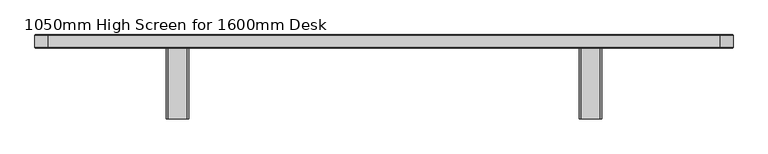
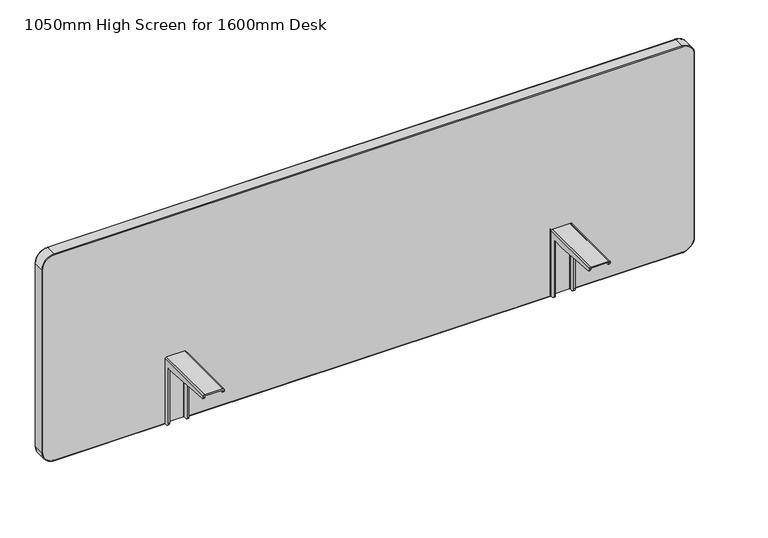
"""IFC4 building model written with IfcOpenShell, lengths in millimetres: furniture geometry, DBLTD_TheSenatorGroup_OffcDsks_Workbase_Single_FabricScreen : 1050mm High Screen for 1600mm Desk."""

from ifc_helpers import new_model, si_unit, point, frame, origin, place, context, project, spatial, polyline, circle_curve, ellipse_curve, trimmed, source, transform, mapped, element, save
from ifc_brep_helpers import plane_surface, cylinder_surface, revolved_surface, advanced_brep


def furniture_1050mm_high_screen_for_1600mm_desk_5fab72e6(model_context):
    return source(origin(), model_context, "Body", "AdvancedBrep", [
        advanced_brep(
        [(515.4999924, 810.0117826, 692.2500534), (518.4999924, 810.0117826, 695.2500534), (562.4536863, 810.0117826, 695.2500534), (565.4536863, 810.0117826, 692.2500534), (565.4536863, 810.0117826, 527.4999888), (830.5, 810.0117826, 527.4999888), (858.5, 810.0117826, 555.4999888), (858.5, 810.0117826, 1020.0), (830.5, 810.0117826, 1048.0), (-675.5, 810.0117826, 1048.0), (-703.5, 810.0117826, 1020.0), (-703.5, 810.0117826, 555.4999888), (-675.5, 810.0117826, 527.4999888), (-410.4536863, 810.0117826, 527.4999888), (-410.4536863, 810.0117826, 692.2500534), (-407.4536863, 810.0117826, 695.2500534), (-363.4999924, 810.0117826, 695.2500534), (-360.4999924, 810.0117826, 692.2500534), (-360.4999924, 810.0117826, 527.4999888), (515.4999924, 810.0117826, 527.4999888), (858.5, 840.0117886, 555.4999888), (830.5, 840.0117886, 527.4999888), (-675.5, 840.0117886, 527.4999888), (-703.5, 840.0117886, 555.4999888), (-703.5, 840.0117886, 1020.0), (-675.5, 840.0117886, 1048.0), (830.5, 840.0117886, 1048.0), (858.5, 840.0117886, 1020.0), (830.5, 812.0117759, 1050.0), (830.5, 838.0117886, 1050.0), (-675.5, 838.0117886, 1050.0), (-675.5, 812.0117826, 1050.0), (-705.5, 838.0117886, 1020.0), (-705.5, 812.0117773, 1020.0), (-705.5, 838.0117886, 555.4999888), (-705.5, 812.0117826, 555.4999888), (-675.5, 838.0117886, 525.4999888), (-675.5, 812.0117811, 525.4999888), (830.5, 812.0117782, 525.4999888), (830.5, 838.0117886, 525.4999888), (860.5, 838.0117886, 555.4999888), (860.5, 812.0117802, 555.4999888), (860.5, 838.0117886, 1020.0), (860.5, 812.0117826, 1020.0), (565.4536863, 816.0117817, 525.4999888), (515.4999924, 816.0117817, 525.4999888), (515.4999924, 812.0117826, 525.4999888), (-360.4999924, 812.0117826, 525.4999888), (-360.4999924, 816.0117817, 525.4999888), (-410.4536863, 816.0117817, 525.4999888), (-410.4536863, 812.0117826, 525.4999888), (565.4536863, 812.0117826, 525.4999888), (565.4536863, 816.0117817, 692.2500534), (562.4536863, 816.0117817, 695.2500534), (518.4999924, 816.0117817, 695.2500534), (515.4999924, 816.0117817, 692.2500534), (-360.4999924, 816.0117817, 692.2500534), (-363.4999924, 816.0117817, 695.2500534), (-407.4536863, 816.0117817, 695.2500534), (-410.4536863, 816.0117817, 692.2500534)],
        [
            (0, 1, circle_curve(frame((518.4999924, 810.0117826, 692.2500534), z_axis=(0.0, 1.0, 0.0), x_axis=(-1.0, 0.0, 0.0)), 3.0)),
            (1, 2),
            (2, 3, circle_curve(frame((562.4536863, 810.0117826, 692.2500534), z_axis=(0.0, 1.0, 0.0), x_axis=(-1.0, 0.0, 0.0)), 3.0)),
            (3, 4),
            (4, 5),
            (5, 6, circle_curve(frame((830.5, 810.0117826, 555.4999888), z_axis=(0.0, -1.0, 0.0), x_axis=(0.0, 0.0, -1.0)), 28.0)),
            (6, 7),
            (7, 8, circle_curve(frame((830.5, 810.0117826, 1020.0), z_axis=(0.0, -1.0, 0.0), x_axis=(1.0, 0.0, 0.0)), 28.0)),
            (8, 9),
            (9, 10, circle_curve(frame((-675.5, 810.0117826, 1020.0), z_axis=(0.0, -1.0, 0.0), x_axis=(0.0, 0.0, 1.0)), 28.0)),
            (10, 11),
            (11, 12, circle_curve(frame((-675.5, 810.0117826, 555.4999888), z_axis=(0.0, -1.0, 0.0), x_axis=(-1.0, 0.0, 0.0)), 28.0)),
            (12, 13),
            (13, 14),
            (14, 15, circle_curve(frame((-407.4536863, 810.0117826, 692.2500534), z_axis=(0.0, 1.0, 0.0), x_axis=(1.0, 0.0, 0.0)), 3.0)),
            (15, 16),
            (16, 17, circle_curve(frame((-363.4999924, 810.0117826, 692.2500534), z_axis=(0.0, 1.0, 0.0), x_axis=(1.0, 0.0, 0.0)), 3.0)),
            (17, 18),
            (18, 19),
            (19, 0),
            (20, 21, circle_curve(frame((830.5, 840.0117886, 555.4999888), z_axis=(0.0, 1.0, 0.0), x_axis=(0.0, 0.0, -1.0)), 28.0)),
            (21, 22),
            (22, 23, circle_curve(frame((-675.5, 840.0117886, 555.4999888), z_axis=(0.0, 1.0, 0.0), x_axis=(-1.0, 0.0, 0.0)), 28.0)),
            (23, 24),
            (24, 25, circle_curve(frame((-675.5, 840.0117886, 1020.0), z_axis=(0.0, 1.0, 0.0), x_axis=(0.0, 0.0, 1.0)), 28.0)),
            (25, 26),
            (26, 27, circle_curve(frame((830.5, 840.0117886, 1020.0), z_axis=(0.0, 1.0, 0.0), x_axis=(1.0, 0.0, 0.0)), 28.0)),
            (27, 20),
            (28, 29),
            (29, 30),
            (30, 31),
            (31, 28),
            (30, 32, circle_curve(frame((-675.5, 838.0117886, 1020.0), z_axis=(0.0, -1.0, 0.0), x_axis=(1.0, 0.0, 0.0)), 30.0)),
            (32, 33),
            (33, 31, circle_curve(frame((-675.5, 812.0117826, 1020.0), z_axis=(0.0, 1.0, 0.0), x_axis=(1.0, 0.0, 0.0)), 30.0)),
            (32, 34),
            (34, 35),
            (35, 33),
            (34, 36, circle_curve(frame((-675.5, 838.0117886, 555.4999888), z_axis=(0.0, -1.0, 0.0), x_axis=(1.0, 0.0, 0.0)), 30.0)),
            (36, 37),
            (37, 35, circle_curve(frame((-675.5, 812.0117826, 555.4999888), z_axis=(0.0, 1.0, 0.0), x_axis=(1.0, 0.0, 0.0)), 30.0)),
            (38, 39),
            (39, 40, circle_curve(frame((830.5, 838.0117886, 555.4999888), z_axis=(0.0, -1.0, 0.0), x_axis=(1.0, 0.0, 0.0)), 30.0)),
            (40, 41),
            (41, 38, circle_curve(frame((830.5, 812.0117826, 555.4999888), z_axis=(0.0, 1.0, 0.0), x_axis=(1.0, 0.0, 0.0)), 30.0)),
            (40, 42),
            (42, 43),
            (43, 41),
            (28, 43, circle_curve(frame((830.5, 812.0117826, 1020.0), z_axis=(0.0, 1.0, 0.0), x_axis=(1.0, 0.0, 0.0)), 30.0)),
            (42, 29, circle_curve(frame((830.5, 838.0117886, 1020.0), z_axis=(0.0, -1.0, 0.0), x_axis=(1.0, 0.0, 0.0)), 30.0)),
            (44, 45),
            (45, 46),
            (46, 47),
            (47, 48),
            (48, 49),
            (49, 50),
            (50, 37),
            (36, 39),
            (38, 51),
            (51, 44),
            (44, 52),
            (52, 53, circle_curve(frame((562.4536863, 816.0117817, 692.2500534), z_axis=(0.0, -1.0, 0.0), x_axis=(-1.0, 0.0, 0.0)), 3.0)),
            (53, 54),
            (54, 55, circle_curve(frame((518.4999924, 816.0117817, 692.2500534), z_axis=(0.0, -1.0, 0.0), x_axis=(-1.0, 0.0, 0.0)), 3.0)),
            (55, 45),
            (55, 0),
            (19, 46, circle_curve(frame((515.4999924, 812.0117826, 527.4999888), z_axis=(1.0, 0.0, 0.0), x_axis=(0.0, 1.0, 0.0)), 2.0)),
            (54, 1),
            (53, 2),
            (52, 3),
            (51, 4, circle_curve(frame((565.4536863, 812.0117826, 527.4999888), z_axis=(-1.0, 0.0, 0.0), x_axis=(0.0, 1.0, 0.0)), 2.0)),
            (48, 56),
            (56, 57, circle_curve(frame((-363.4999924, 816.0117817, 692.2500534), z_axis=(0.0, -1.0, 0.0), x_axis=(1.0, 0.0, 0.0)), 3.0)),
            (57, 58),
            (58, 59, circle_curve(frame((-407.4536863, 816.0117817, 692.2500534), z_axis=(0.0, -1.0, 0.0), x_axis=(1.0, 0.0, 0.0)), 3.0)),
            (59, 49),
            (47, 18, circle_curve(frame((-360.4999924, 812.0117826, 527.4999888), z_axis=(-1.0, 0.0, 0.0), x_axis=(0.0, 1.0, 0.0)), 2.0)),
            (17, 56),
            (16, 57),
            (15, 58),
            (14, 59),
            (13, 50, circle_curve(frame((-410.4536863, 812.0117826, 527.4999888), z_axis=(1.0, 0.0, 0.0), x_axis=(0.0, 1.0, 0.0)), 2.0)),
            (41, 6, circle_curve(frame((858.5, 812.0117826, 555.4999888), z_axis=(0.0, 0.0, -1.0), x_axis=(0.0, -1.0, 0.0)), 2.0)),
            (5, 38, circle_curve(frame((830.5, 812.0117826, 527.4999888), z_axis=(1.0, 0.0, 0.0), x_axis=(0.0, -1.0, 0.0)), 2.0)),
            (43, 7, circle_curve(frame((858.5, 812.0117826, 1020.0), z_axis=(0.0, 0.0, -1.0), x_axis=(0.0, -1.0, 0.0)), 2.0)),
            (28, 8, circle_curve(frame((830.5, 812.0117826, 1048.0), z_axis=(1.0, 0.0, 0.0), x_axis=(0.0, -1.0, 0.0)), 2.0)),
            (31, 9, circle_curve(frame((-675.5, 812.0117826, 1048.0), z_axis=(1.0, 0.0, 0.0), x_axis=(0.0, -1.0, 0.0)), 2.0)),
            (33, 10, circle_curve(frame((-703.5, 812.0117826, 1020.0), z_axis=(0.0, 0.0, 1.0), x_axis=(0.0, -1.0, 0.0)), 2.0)),
            (35, 11, circle_curve(frame((-703.5, 812.0117826, 555.4999888), z_axis=(0.0, 0.0, 1.0), x_axis=(0.0, -1.0, 0.0)), 2.0)),
            (37, 12, circle_curve(frame((-675.5, 812.0117826, 527.4999888), z_axis=(-1.0, 0.0, 0.0), x_axis=(0.0, -1.0, 0.0)), 2.0)),
            (20, 40, circle_curve(frame((858.5, 838.0117886, 555.4999888), z_axis=(0.0, 0.0, -1.0), x_axis=(0.0, -1.0, 0.0)), 2.0)),
            (39, 21, circle_curve(frame((830.5, 838.0117886, 527.4999888), z_axis=(1.0, 0.0, 0.0), x_axis=(0.0, -1.0, 0.0)), 2.0)),
            (27, 42, circle_curve(frame((858.5, 838.0117886, 1020.0), z_axis=(0.0, 0.0, -1.0), x_axis=(0.0, -1.0, 0.0)), 2.0)),
            (26, 29, circle_curve(frame((830.5, 838.0117886, 1048.0), z_axis=(1.0, 0.0, 0.0), x_axis=(0.0, -1.0, 0.0)), 2.0)),
            (25, 30, circle_curve(frame((-675.5, 838.0117886, 1048.0), z_axis=(1.0, 0.0, 0.0), x_axis=(0.0, -1.0, 0.0)), 2.0)),
            (24, 32, circle_curve(frame((-703.5, 838.0117886, 1020.0), z_axis=(0.0, 0.0, 1.0), x_axis=(0.0, -1.0, 0.0)), 2.0)),
            (23, 34, circle_curve(frame((-703.5, 838.0117886, 555.4999888), z_axis=(0.0, 0.0, 1.0), x_axis=(0.0, -1.0, 0.0)), 2.0)),
            (22, 36, circle_curve(frame((-675.5, 838.0117886, 527.4999888), z_axis=(-1.0, 0.0, 0.0), x_axis=(0.0, -1.0, 0.0)), 2.0)),
        ],
        [
            plane_surface(frame((-675.5, 810.0117826, 1050.0), z_axis=(0.0, -1.0, 0.0), x_axis=(-1.0, 0.0, 0.0))),
            plane_surface(frame((-675.5, 840.0117886, 1050.0), z_axis=(0.0, 1.0, 0.0), x_axis=(1.0, 0.0, 0.0))),
            plane_surface(frame((830.5, 810.0117826, 1050.0), z_axis=(0.0, 0.0, 1.0), x_axis=(0.0, 1.0, 0.0))),
            cylinder_surface(frame((-675.5, 840.0117886, 1020.0), z_axis=(0.0, -1.0, 0.0), x_axis=(1.0, 0.0, 0.0)), 30.0),
            plane_surface(frame((-705.5, 810.0117826, 1020.0), z_axis=(-1.0, 0.0, 0.0), x_axis=(0.0, 1.0, 0.0))),
            cylinder_surface(frame((-675.5, 840.0117886, 555.4999888), z_axis=(0.0, -1.0, 0.0), x_axis=(1.0, 0.0, 0.0)), 30.0),
            cylinder_surface(frame((830.5, 840.0117886, 555.4999888), z_axis=(0.0, -1.0, 0.0), x_axis=(1.0, 0.0, 0.0)), 30.0),
            plane_surface(frame((860.5, 810.0117826, 555.4999888), z_axis=(1.0, 0.0, 0.0), x_axis=(0.0, 1.0, 0.0))),
            cylinder_surface(frame((830.5, 840.0117886, 1020.0), z_axis=(0.0, -1.0, 0.0), x_axis=(1.0, 0.0, 0.0)), 30.0),
            plane_surface(frame((-675.5, 810.0117826, 525.4999888), z_axis=(0.0, 0.0, -1.0), x_axis=(0.0, 1.0, 0.0))),
            plane_surface(frame((565.4536863, 816.0117817, 692.2500534), z_axis=(0.0, -1.0, 0.0), x_axis=(0.0, 0.0, -1.0))),
            plane_surface(frame((515.4999924, 810.0117826, 692.2500534), z_axis=(1.0, 0.0, 0.0), x_axis=(0.0, 1.0, 0.0))),
            revolved_surface(polyline([(515.4999924, 810.0117826, 692.2500534), (515.4999924, 816.0117817, 692.2500534)]), (518.4999924, 816.0117817, 692.2500534), (0.0, -1.0, 0.0)),
            plane_surface(frame((562.4536863, 810.0117826, 695.2500534), z_axis=(0.0, 0.0, -1.0), x_axis=(0.0, 1.0, 0.0))),
            revolved_surface(polyline([(559.4536863, 810.0117826, 692.2500534), (559.4536863, 816.0117817, 692.2500534)]), (562.4536863, 816.0117817, 692.2500534), (0.0, -1.0, 0.0)),
            plane_surface(frame((565.4536863, 810.0117826, 525.4999888), z_axis=(-1.0, 0.0, 0.0), x_axis=(0.0, 1.0, 0.0))),
            plane_surface(frame((-410.4536863, 816.0117817, 525.4999888), z_axis=(0.0, -1.0, 0.0), x_axis=(-1.0, 0.0, 0.0))),
            plane_surface(frame((-360.4999924, 810.0117826, 525.4999888), z_axis=(-1.0, 0.0, 0.0), x_axis=(0.0, 1.0, 0.0))),
            revolved_surface(polyline([(-360.4999924, 810.0117826, 692.2500534), (-360.4999924, 816.0117817, 692.2500534)]), (-363.4999924, 816.0117817, 692.2500534), (0.0, -1.0, 0.0)),
            plane_surface(frame((-363.4999924, 810.0117826, 695.2500534), z_axis=(0.0, 0.0, -1.0), x_axis=(0.0, 1.0, 0.0))),
            revolved_surface(polyline([(-404.4536863, 810.0117826, 692.2500534), (-404.4536863, 816.0117817, 692.2500534)]), (-407.4536863, 816.0117817, 692.2500534), (0.0, -1.0, 0.0)),
            plane_surface(frame((-410.4536863, 810.0117826, 692.2500534), z_axis=(1.0, 0.0, 0.0), x_axis=(0.0, 1.0, 0.0))),
            revolved_surface(trimmed(ellipse_curve(frame((830.5, 812.0117826, 527.4999888), z_axis=(-1.0, 0.0, 0.0), x_axis=(0.0, -1.0, 0.0)), 2.0, 2.0), [point((830.5, 812.0117826, 525.4999888))], [point((830.5, 810.0117826, 527.4999888))], True, "CARTESIAN"), (830.5, 810.0117826, 555.4999888), (0.0, -1.0, 0.0)),
            cylinder_surface(frame((858.5, 812.0117826, 555.4999888), z_axis=(0.0, 0.0, 1.0), x_axis=(0.0, -1.0, 0.0)), 2.0),
            revolved_surface(trimmed(ellipse_curve(frame((858.5, 812.0117826, 1020.0), z_axis=(0.0, 0.0, -1.0), x_axis=(0.0, -1.0, 0.0)), 2.0, 2.0), [point((860.5, 812.0117826, 1020.0))], [point((858.5, 810.0117826, 1020.0))], True, "CARTESIAN"), (830.5, 810.0117826, 1020.0), (0.0, -1.0, 0.0)),
            cylinder_surface(frame((830.5, 812.0117826, 1048.0), z_axis=(-1.0, 0.0, 0.0), x_axis=(0.0, -1.0, 0.0)), 2.0),
            revolved_surface(trimmed(ellipse_curve(frame((-675.5, 812.0117826, 1048.0), z_axis=(1.0, 0.0, 0.0), x_axis=(0.0, -1.0, 0.0)), 2.0, 2.0), [point((-675.5, 812.0117826, 1050.0))], [point((-675.5, 810.0117826, 1048.0))], True, "CARTESIAN"), (-675.5, 810.0117826, 1020.0), (0.0, -1.0, 0.0)),
            cylinder_surface(frame((-703.5, 812.0117826, 1020.0), z_axis=(0.0, 0.0, -1.0), x_axis=(0.0, -1.0, 0.0)), 2.0),
            revolved_surface(trimmed(ellipse_curve(frame((-703.5, 812.0117826, 555.4999888), z_axis=(0.0, 0.0, 1.0), x_axis=(0.0, -1.0, 0.0)), 2.0, 2.0), [point((-705.5, 812.0117826, 555.4999888))], [point((-703.5, 810.0117826, 555.4999888))], True, "CARTESIAN"), (-675.5, 810.0117826, 555.4999888), (0.0, -1.0, 0.0)),
            revolved_surface(trimmed(ellipse_curve(frame((830.5, 838.0117886, 527.4999888), z_axis=(-1.0, 0.0, 0.0), x_axis=(0.0, -1.0, 0.0)), 2.0, 2.0), [point((830.5, 840.0117886, 527.4999888))], [point((830.5, 838.0117886, 525.4999888))], True, "CARTESIAN"), (830.5, 810.0117826, 555.4999888), (0.0, -1.0, 0.0)),
            cylinder_surface(frame((858.5, 838.0117886, 555.4999888), z_axis=(0.0, 0.0, 1.0), x_axis=(0.0, -1.0, 0.0)), 2.0),
            revolved_surface(trimmed(ellipse_curve(frame((858.5, 838.0117886, 1020.0), z_axis=(0.0, 0.0, -1.0), x_axis=(0.0, -1.0, 0.0)), 2.0, 2.0), [point((858.5, 840.0117886, 1020.0))], [point((860.5, 838.0117886, 1020.0))], True, "CARTESIAN"), (830.5, 810.0117826, 1020.0), (0.0, -1.0, 0.0)),
            cylinder_surface(frame((830.5, 838.0117886, 1048.0), z_axis=(-1.0, 0.0, 0.0), x_axis=(0.0, -1.0, 0.0)), 2.0),
            revolved_surface(trimmed(ellipse_curve(frame((-675.5, 838.0117886, 1048.0), z_axis=(1.0, 0.0, 0.0), x_axis=(0.0, -1.0, 0.0)), 2.0, 2.0), [point((-675.5, 840.0117886, 1048.0))], [point((-675.5, 838.0117886, 1050.0))], True, "CARTESIAN"), (-675.5, 810.0117826, 1020.0), (0.0, -1.0, 0.0)),
            cylinder_surface(frame((-703.5, 838.0117886, 1020.0), z_axis=(0.0, 0.0, -1.0), x_axis=(0.0, -1.0, 0.0)), 2.0),
            revolved_surface(trimmed(ellipse_curve(frame((-703.5, 838.0117886, 555.4999888), z_axis=(0.0, 0.0, 1.0), x_axis=(0.0, -1.0, 0.0)), 2.0, 2.0), [point((-703.5, 840.0117886, 555.4999888))], [point((-705.5, 838.0117886, 555.4999888))], True, "CARTESIAN"), (-675.5, 810.0117826, 555.4999888), (0.0, -1.0, 0.0)),
            cylinder_surface(frame((-675.5, 838.0117886, 527.4999888), z_axis=(-1.0, 0.0, 0.0), x_axis=(0.0, 1.0, 0.0)), 2.0),
            cylinder_surface(frame((0.0, 812.0117826, 527.4999888), z_axis=(-1.0, 0.0, 0.0), x_axis=(0.0, 1.0, 0.0)), 2.0),
        ],
        [
            (0, [[1, 2, 3, 4, 5, 6, 7, 8, 9, 10, 11, 12, 13, 14, 15, 16, 17, 18, 19, 20]]),
            (1, [[21, 22, 23, 24, 25, 26, 27, 28]]),
            (2, [[29, 30, 31, 32]]),
            (3, [[-31, 33, 34, 35]]),
            (4, [[-34, 36, 37, 38]]),
            (5, [[-37, 39, 40, 41]]),
            (6, [[42, 43, 44, 45]]),
            (7, [[-44, 46, 47, 48]]),
            (8, [[-29, 49, -47, 50]]),
            (9, [[51, 52, 53, 54, 55, 56, 57, -40, 58, -42, 59, 60]]),
            (10, [[61, 62, 63, 64, 65, -51]]),
            (11, [[-65, 66, -20, 67, -52]]),
            (12, [[-64, 68, -1, -66]]),
            (13, [[-63, 69, -2, -68]]),
            (14, [[-62, 70, -3, -69]]),
            (15, [[-61, -60, 71, -4, -70]]),
            (16, [[72, 73, 74, 75, 76, -55]]),
            (17, [[-72, -54, 77, -18, 78]]),
            (18, [[-73, -78, -17, 79]]),
            (19, [[-74, -79, -16, 80]]),
            (20, [[-75, -80, -15, 81]]),
            (21, [[-76, -81, -14, 82, -56]]),
            (22, [[83, -6, 84, -45]]),
            (23, [[-83, -48, 85, -7]]),
            (24, [[-85, -49, 86, -8]]),
            (25, [[-86, -32, 87, -9]]),
            (26, [[-87, -35, 88, -10]]),
            (27, [[-88, -38, 89, -11]]),
            (28, [[-89, -41, 90, -12]]),
            (29, [[91, -43, 92, -21]]),
            (30, [[-91, -28, 93, -46]]),
            (31, [[-93, -27, 94, -50]]),
            (32, [[-94, -26, 95, -30]]),
            (33, [[-95, -25, 96, -33]]),
            (34, [[-96, -24, 97, -36]]),
            (35, [[-97, -23, 98, -39]]),
            (36, [[-22, -92, -58, -98]]),
            (37, [[-5, -71, -59, -84]]),
            (37, [[-13, -90, -57, -82]]),
            (37, [[-19, -77, -53, -67]]),
        ],
    ),
        advanced_brep(
        [(562.4536863, 806.1752329, 527.2500539), (565.4536863, 806.1752329, 527.2500539), (565.4536863, 796.1752329, 537.2500539), (562.4536863, 796.1752329, 537.2500539), (515.4999924, 806.1752329, 527.2500539), (518.4999924, 806.1752329, 527.2500539), (518.4999924, 797.3929828, 532.4675772), (515.4999924, 797.3929828, 532.4675772), (518.4999924, 655.6318851, 684.9797332), (515.4999924, 655.6318851, 684.9797332), (515.4999924, 765.1939716, 676.6312545), (518.4999924, 765.1939716, 676.6312545), (565.4536863, 655.6318851, 684.9797332), (562.4536863, 655.6318851, 684.9797332), (562.4536863, 781.1752329, 675.4135046), (565.4536863, 781.1752329, 675.4135046), (518.4999924, 651.0117769, 689.9652805), (515.4999924, 651.0117769, 689.9652805), (565.4536863, 651.0117769, 689.9652805), (562.4536863, 651.0117769, 689.9652805), (518.4999924, 816.0117817, 527.2500539), (562.4536863, 816.0117817, 527.2500539), (565.4536863, 813.0117817, 527.2500539), (562.4536863, 812.0117817, 527.2500539), (561.4536863, 813.0117817, 527.2500539), (519.4999924, 813.0117817, 527.2500539), (518.4999924, 812.0117817, 527.2500539), (515.4999924, 813.0117817, 527.2500539), (515.4999924, 813.0117817, 692.2500534), (518.4999924, 816.0117817, 695.2500534), (515.4999924, 797.3929828, 676.6312545), (515.4999924, 651.0117769, 692.2500534), (518.4999924, 797.3929828, 676.6312545), (518.4999924, 812.0117817, 691.2500534), (518.4999924, 651.0117769, 691.2500534), (519.4999924, 813.0117817, 692.2500534), (561.4536863, 813.0117817, 692.2500534), (562.4536863, 812.0117817, 691.2500534), (562.4536863, 796.1752329, 675.4135046), (562.4536863, 651.0117769, 691.2500534), (565.4536863, 796.1752329, 675.4135046), (565.4536863, 813.0117817, 692.2500534), (565.4536863, 651.0117769, 692.2500534), (562.4536863, 816.0117817, 695.2500534), (518.4999924, 651.0117769, 695.2500534), (519.4999924, 651.0117769, 692.2500534), (561.4536863, 651.0117769, 692.2500534), (562.4536863, 651.0117769, 695.2500534)],
        [
            (0, 1),
            (1, 2, circle_curve(frame((565.4536863, 806.1752329, 537.2500539), z_axis=(-1.0, 0.0, 0.0), x_axis=(0.0, 1.0, 0.0)), 10.0)),
            (2, 3),
            (3, 0, circle_curve(frame((562.4536863, 806.1752329, 537.2500539), z_axis=(1.0, 0.0, 0.0), x_axis=(0.0, 1.0, 0.0)), 10.0)),
            (4, 5),
            (5, 6, circle_curve(frame((518.4999924, 806.1752329, 537.2500539), z_axis=(-1.0, 0.0, 0.0), x_axis=(0.0, 1.0, 0.0)), 10.0)),
            (6, 7),
            (7, 4, circle_curve(frame((515.4999924, 806.1752329, 537.2500539), z_axis=(1.0, 0.0, 0.0), x_axis=(0.0, 1.0, 0.0)), 10.0)),
            (8, 9),
            (9, 10),
            (10, 11),
            (11, 8),
            (12, 13),
            (13, 14),
            (14, 15),
            (15, 12),
            (8, 16, circle_curve(frame((518.4999924, 656.0117769, 689.9652805), z_axis=(-1.0, 0.0, 0.0), x_axis=(0.0, 1.0, 0.0)), 5.0)),
            (16, 17),
            (17, 9, circle_curve(frame((515.4999924, 656.0117769, 689.9652805), z_axis=(1.0, 0.0, 0.0), x_axis=(0.0, 1.0, 0.0)), 5.0)),
            (12, 18, circle_curve(frame((565.4536863, 656.0117769, 689.9652805), z_axis=(-1.0, 0.0, 0.0), x_axis=(0.0, 1.0, 0.0)), 5.0)),
            (18, 19),
            (19, 13, circle_curve(frame((562.4536863, 656.0117769, 689.9652805), z_axis=(1.0, 0.0, 0.0), x_axis=(0.0, 1.0, 0.0)), 5.0)),
            (20, 21),
            (21, 22, circle_curve(frame((562.4536863, 813.0117817, 527.2500539), z_axis=(0.0, 0.0, -1.0), x_axis=(0.0, 1.0, 0.0)), 3.0)),
            (22, 1),
            (0, 23),
            (23, 24, circle_curve(frame((561.4536863, 812.0117817, 527.2500539), z_axis=(0.0, 0.0, 1.0), x_axis=(0.0, 1.0, 0.0)), 1.0)),
            (24, 25),
            (25, 26, circle_curve(frame((519.4999924, 812.0117817, 527.2500539), z_axis=(0.0, 0.0, 1.0), x_axis=(0.0, 1.0, 0.0)), 1.0)),
            (26, 5),
            (4, 27),
            (27, 20, circle_curve(frame((518.4999924, 813.0117817, 527.2500539), z_axis=(0.0, 0.0, -1.0), x_axis=(0.0, 1.0, 0.0)), 3.0)),
            (27, 28),
            (28, 29, ellipse_curve(frame((518.4999924, 813.0117817, 692.2500534), z_axis=(0.0, 0.7071067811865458, -0.7071067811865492), x_axis=(0.0, -0.7071067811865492, -0.7071067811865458)), 4.2426407, 3.0)),
            (29, 20),
            (7, 30),
            (30, 10),
            (17, 31),
            (31, 28),
            (32, 30),
            (6, 32),
            (26, 33),
            (33, 34),
            (34, 16),
            (11, 32),
            (25, 35),
            (35, 33, ellipse_curve(frame((519.4999924, 812.0117817, 691.2500534), z_axis=(0.0, -0.7071067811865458, 0.7071067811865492), x_axis=(0.0, 0.7071067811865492, 0.7071067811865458)), 1.4142136, 1.0)),
            (24, 36),
            (36, 35),
            (23, 37),
            (37, 36, ellipse_curve(frame((561.4536863, 812.0117817, 691.2500534), z_axis=(0.0, -0.7071067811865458, 0.7071067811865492), x_axis=(0.0, 0.7071067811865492, 0.7071067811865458)), 1.4142136, 1.0)),
            (3, 38),
            (38, 14),
            (19, 39),
            (39, 37),
            (40, 38),
            (2, 40),
            (22, 41),
            (41, 42),
            (42, 18),
            (15, 40),
            (21, 43),
            (43, 41, ellipse_curve(frame((562.4536863, 813.0117817, 692.2500534), z_axis=(0.0, 0.7071067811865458, -0.7071067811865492), x_axis=(0.0, -0.7071067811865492, -0.7071067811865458)), 4.2426407, 3.0)),
            (29, 43),
            (44, 31, circle_curve(frame((518.4999924, 651.0117769, 692.2500534), z_axis=(0.0, -1.0, 0.0), x_axis=(0.0, 0.0, 1.0)), 3.0)),
            (34, 45, circle_curve(frame((519.4999924, 651.0117769, 691.2500534), z_axis=(0.0, 1.0, 0.0), x_axis=(0.0, 0.0, 1.0)), 1.0)),
            (45, 46),
            (46, 39, circle_curve(frame((561.4536863, 651.0117769, 691.2500534), z_axis=(0.0, 1.0, 0.0), x_axis=(0.0, 0.0, 1.0)), 1.0)),
            (42, 47, circle_curve(frame((562.4536863, 651.0117769, 692.2500534), z_axis=(0.0, -1.0, 0.0), x_axis=(0.0, 0.0, 1.0)), 3.0)),
            (47, 44),
            (44, 29),
            (35, 45),
            (36, 46),
            (43, 47),
        ],
        [
            cylinder_surface(frame((-740.423954, 806.1752329, 537.2500539), z_axis=(-1.0, 0.0, 0.0), x_axis=(0.0, 1.0, 0.0)), 10.0),
            plane_surface(frame((895.423954, 781.1752329, 675.4135046), z_axis=(0.0, -0.07597835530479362, -0.9971094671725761), x_axis=(-1.0, 0.0, 0.0))),
            cylinder_surface(frame((0.0, 656.0117769, 689.9652805), z_axis=(-1.0, 0.0, 0.0), x_axis=(0.0, 1.0, 0.0)), 5.0),
            plane_surface(frame((155.0, 816.0117817, 527.2500539), z_axis=(0.0, 0.0, -1.0), x_axis=(-1.0, 0.0, 0.0))),
            cylinder_surface(frame((518.4999924, 813.0117817, 527.2500539), z_axis=(0.0, 0.0, -1.0), x_axis=(0.0, 1.0, 0.0)), 3.0),
            plane_surface(frame((515.4999924, 797.3929828, 527.2500539), z_axis=(-1.0, 0.0, 0.0), x_axis=(0.0, 0.0, 1.0))),
            plane_surface(frame((518.4999924, 797.3929828, 527.2500539), z_axis=(0.0, -1.0, 0.0), x_axis=(0.0, 0.0, 1.0))),
            plane_surface(frame((518.4999924, 812.0117817, 527.2500539), z_axis=(1.0, 0.0, 0.0), x_axis=(0.0, 0.0, 1.0))),
            revolved_surface(polyline([(519.4999924, 813.0117817, 692.2500534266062), (519.4999924, 813.0117817, 527.2500539)]), (519.4999924, 812.0117817, 527.2500539), (0.0, 0.0, 1.0)),
            plane_surface(frame((561.4536863, 813.0117817, 527.2500539), z_axis=(0.0, -1.0, 0.0), x_axis=(0.0, 0.0, 1.0))),
            revolved_surface(polyline([(561.4536863, 813.0117817, 692.2500534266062), (561.4536863, 813.0117817, 527.2500539)]), (561.4536863, 812.0117817, 527.2500539), (0.0, 0.0, 1.0)),
            plane_surface(frame((562.4536863, 796.1752329, 527.2500539), z_axis=(-1.0, 0.0, 0.0), x_axis=(0.0, 0.0, 1.0))),
            plane_surface(frame((565.4536863, 796.1752329, 527.2500539), z_axis=(0.0, -1.0, 0.0), x_axis=(0.0, 0.0, 1.0))),
            plane_surface(frame((565.4536863, 813.0117817, 527.2500539), z_axis=(1.0, 0.0, 0.0), x_axis=(0.0, 0.0, 1.0))),
            cylinder_surface(frame((562.4536863, 813.0117817, 527.2500539), z_axis=(0.0, 0.0, -1.0), x_axis=(0.0, 1.0, 0.0)), 3.0),
            plane_surface(frame((518.4999924, 816.0117817, 527.2500539), z_axis=(0.0, 1.0, 0.0), x_axis=(0.0, 0.0, 1.0))),
            plane_surface(frame((155.0, 651.0117769, 695.2500534), z_axis=(0.0, -1.0, 0.0), x_axis=(-1.0, 0.0, 0.0))),
            cylinder_surface(frame((518.4999924, 816.0117817, 692.2500534), z_axis=(0.0, 1.0, 0.0), x_axis=(0.0, 0.0, 1.0)), 3.0),
            plane_surface(frame((518.4999924, 797.3929828, 676.6312545), z_axis=(0.0, 0.0, -1.0), x_axis=(0.0, -1.0, 0.0))),
            revolved_surface(polyline([(519.4999924, 651.0117769, 692.2500534), (519.4999924, 813.0117817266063, 692.2500534)]), (519.4999924, 816.0117817, 691.2500534), (0.0, -1.0, 0.0)),
            plane_surface(frame((561.4536863, 813.0117817, 692.2500534), z_axis=(0.0, 0.0, -1.0), x_axis=(0.0, -1.0, 0.0))),
            revolved_surface(polyline([(561.4536863, 651.0117769, 692.2500534), (561.4536863, 813.0117817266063, 692.2500534)]), (561.4536863, 816.0117817, 691.2500534), (0.0, -1.0, 0.0)),
            plane_surface(frame((565.4536863, 796.1752329, 675.4135046), z_axis=(0.0, 0.0, -1.0), x_axis=(0.0, -1.0, 0.0))),
            cylinder_surface(frame((562.4536863, 816.0117817, 692.2500534), z_axis=(0.0, 1.0, 0.0), x_axis=(0.0, 0.0, 1.0)), 3.0),
            plane_surface(frame((518.4999924, 816.0117817, 695.2500534), z_axis=(0.0, 0.0, 1.0), x_axis=(0.0, -1.0, 0.0))),
        ],
        [
            (0, [[1, 2, 3, 4]]),
            (0, [[5, 6, 7, 8]]),
            (1, [[9, 10, 11, 12]]),
            (1, [[13, 14, 15, 16]]),
            (2, [[-9, 17, 18, 19]]),
            (2, [[-13, 20, 21, 22]]),
            (3, [[23, 24, 25, -1, 26, 27, 28, 29, 30, -5, 31, 32]]),
            (4, [[-32, 33, 34, 35]]),
            (5, [[-33, -31, -8, 36, 37, -10, -19, 38, 39]]),
            (6, [[40, -36, -7, 41]]),
            (7, [[42, 43, 44, -17, -12, 45, -41, -6, -30]]),
            (8, [[-29, 46, 47, -42]]),
            (9, [[-28, 48, 49, -46]]),
            (10, [[-27, 50, 51, -48]]),
            (11, [[-50, -26, -4, 52, 53, -14, -22, 54, 55]]),
            (12, [[56, -52, -3, 57]]),
            (13, [[58, 59, 60, -20, -16, 61, -57, -2, -25]]),
            (14, [[-24, 62, 63, -58]]),
            (15, [[-23, -35, 64, -62]]),
            (16, [[65, -38, -18, -44, 66, 67, 68, -54, -21, -60, 69, 70]]),
            (17, [[-34, -39, -65, 71]]),
            (18, [[-40, -45, -11, -37]]),
            (19, [[-43, -47, 72, -66]]),
            (20, [[-49, 73, -67, -72]]),
            (21, [[-51, -55, -68, -73]]),
            (22, [[-56, -61, -15, -53]]),
            (23, [[-59, -63, 74, -69]]),
            (24, [[-64, -71, -70, -74]]),
        ],
    ),
        advanced_brep(
        [(-363.4999924, 816.0117817, 527.2500539), (-360.4999924, 813.0117817, 527.2500539), (-360.4999924, 806.1752329, 527.2500539), (-363.4999924, 806.1752329, 527.2500539), (-363.4999924, 812.0117817, 527.2500539), (-364.4999924, 813.0117817, 527.2500539), (-406.4536863, 813.0117817, 527.2500539), (-407.4536863, 812.0117817, 527.2500539), (-407.4536863, 806.1752329, 527.2500539), (-410.4536863, 806.1752329, 527.2500539), (-410.4536863, 813.0117817, 527.2500539), (-407.4536863, 816.0117817, 527.2500539), (-363.4999924, 816.0117817, 695.2500534), (-360.4999924, 813.0117817, 692.2500534), (-360.4999924, 651.0117769, 692.2500534), (-360.4999924, 651.0117769, 689.9652805), (-360.4999924, 655.6318851, 684.9797332), (-360.4999924, 765.1939716, 676.6312545), (-360.4999924, 797.3929828, 676.6312545), (-360.4999924, 797.3929828, 532.4675772), (-363.4999924, 797.3929828, 676.6312545), (-363.4999924, 797.3929828, 532.4675772), (-363.4999924, 651.0117769, 691.2500534), (-363.4999924, 812.0117817, 691.2500534), (-363.4999924, 765.1939716, 676.6312545), (-363.4999924, 655.6318851, 684.9797332), (-363.4999924, 651.0117769, 689.9652805), (-364.4999924, 813.0117817, 692.2500534), (-406.4536863, 813.0117817, 692.2500534), (-407.4536863, 812.0117817, 691.2500534), (-407.4536863, 651.0117769, 691.2500534), (-407.4536863, 651.0117769, 689.9652805), (-407.4536863, 655.6318851, 684.9797332), (-407.4536863, 781.1752329, 675.4135046), (-407.4536863, 796.1752329, 675.4135046), (-407.4536863, 796.1752329, 537.2500539), (-410.4536863, 796.1752329, 675.4135046), (-410.4536863, 796.1752329, 537.2500539), (-410.4536863, 651.0117769, 692.2500534), (-410.4536863, 813.0117817, 692.2500534), (-410.4536863, 781.1752329, 675.4135046), (-410.4536863, 655.6318851, 684.9797332), (-410.4536863, 651.0117769, 689.9652805), (-407.4536863, 816.0117817, 695.2500534), (-363.4999924, 651.0117769, 695.2500534), (-407.4536863, 651.0117769, 695.2500534), (-406.4536863, 651.0117769, 692.2500534), (-364.4999924, 651.0117769, 692.2500534)],
        [
            (0, 1, circle_curve(frame((-363.4999924, 813.0117817, 527.2500539), z_axis=(0.0, 0.0, -1.0), x_axis=(0.0, -1.0, 0.0)), 3.0)),
            (1, 2),
            (2, 3),
            (3, 4),
            (4, 5, circle_curve(frame((-364.4999924, 812.0117817, 527.2500539), z_axis=(0.0, 0.0, 1.0), x_axis=(0.0, -1.0, 0.0)), 1.0)),
            (5, 6),
            (6, 7, circle_curve(frame((-406.4536863, 812.0117817, 527.2500539), z_axis=(0.0, 0.0, 1.0), x_axis=(0.0, -1.0, 0.0)), 1.0)),
            (7, 8),
            (8, 9),
            (9, 10),
            (10, 11, circle_curve(frame((-407.4536863, 813.0117817, 527.2500539), z_axis=(0.0, 0.0, -1.0), x_axis=(0.0, -1.0, 0.0)), 3.0)),
            (11, 0),
            (0, 12),
            (12, 13, ellipse_curve(frame((-363.4999924, 813.0117817, 692.2500534), z_axis=(0.0, 0.7071067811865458, -0.7071067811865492), x_axis=(0.0, -0.7071067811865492, -0.7071067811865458)), 4.2426407, 3.0)),
            (13, 1),
            (13, 14),
            (14, 15),
            (15, 16, circle_curve(frame((-360.4999924, 656.0117769, 689.9652805), z_axis=(1.0, 0.0, 0.0), x_axis=(0.0, 1.0, 0.0)), 5.0)),
            (16, 17),
            (17, 18),
            (18, 19),
            (19, 2, circle_curve(frame((-360.4999924, 806.1752329, 537.2500539), z_axis=(1.0, 0.0, 0.0), x_axis=(0.0, 1.0, 0.0)), 10.0)),
            (18, 20),
            (20, 21),
            (21, 19),
            (22, 23),
            (23, 4),
            (3, 21, circle_curve(frame((-363.4999924, 806.1752329, 537.2500539), z_axis=(-1.0, 0.0, 0.0), x_axis=(0.0, 1.0, 0.0)), 10.0)),
            (20, 24),
            (24, 25),
            (25, 26, circle_curve(frame((-363.4999924, 656.0117769, 689.9652805), z_axis=(-1.0, 0.0, 0.0), x_axis=(0.0, 1.0, 0.0)), 5.0)),
            (26, 22),
            (23, 27, ellipse_curve(frame((-364.4999924, 812.0117817, 691.2500534), z_axis=(0.0, -0.7071067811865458, 0.7071067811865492), x_axis=(0.0, 0.7071067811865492, 0.7071067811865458)), 1.4142136, 1.0)),
            (27, 5),
            (27, 28),
            (28, 6),
            (28, 29, ellipse_curve(frame((-406.4536863, 812.0117817, 691.2500534), z_axis=(0.0, -0.7071067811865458, 0.7071067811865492), x_axis=(0.0, 0.7071067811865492, 0.7071067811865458)), 1.4142136, 1.0)),
            (29, 7),
            (29, 30),
            (30, 31),
            (31, 32, circle_curve(frame((-407.4536863, 656.0117769, 689.9652805), z_axis=(1.0, 0.0, 0.0), x_axis=(0.0, 1.0, 0.0)), 5.0)),
            (32, 33),
            (33, 34),
            (34, 35),
            (35, 8, circle_curve(frame((-407.4536863, 806.1752329, 537.2500539), z_axis=(1.0, 0.0, 0.0), x_axis=(0.0, 1.0, 0.0)), 10.0)),
            (34, 36),
            (36, 37),
            (37, 35),
            (38, 39),
            (39, 10),
            (9, 37, circle_curve(frame((-410.4536863, 806.1752329, 537.2500539), z_axis=(-1.0, 0.0, 0.0), x_axis=(0.0, 1.0, 0.0)), 10.0)),
            (36, 40),
            (40, 41),
            (41, 42, circle_curve(frame((-410.4536863, 656.0117769, 689.9652805), z_axis=(-1.0, 0.0, 0.0), x_axis=(0.0, 1.0, 0.0)), 5.0)),
            (42, 38),
            (39, 43, ellipse_curve(frame((-407.4536863, 813.0117817, 692.2500534), z_axis=(0.0, 0.7071067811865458, -0.7071067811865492), x_axis=(0.0, -0.7071067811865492, -0.7071067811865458)), 4.2426407, 3.0)),
            (43, 11),
            (43, 12),
            (44, 45),
            (45, 38, circle_curve(frame((-407.4536863, 651.0117769, 692.2500534), z_axis=(0.0, -1.0, 0.0), x_axis=(0.0, 0.0, -1.0)), 3.0)),
            (42, 31),
            (30, 46, circle_curve(frame((-406.4536863, 651.0117769, 691.2500534), z_axis=(0.0, 1.0, 0.0), x_axis=(0.0, 0.0, -1.0)), 1.0)),
            (46, 47),
            (47, 22, circle_curve(frame((-364.4999924, 651.0117769, 691.2500534), z_axis=(0.0, 1.0, 0.0), x_axis=(0.0, 0.0, -1.0)), 1.0)),
            (26, 15),
            (14, 44, circle_curve(frame((-363.4999924, 651.0117769, 692.2500534), z_axis=(0.0, -1.0, 0.0), x_axis=(0.0, 0.0, -1.0)), 3.0)),
            (12, 44),
            (17, 24),
            (47, 27),
            (46, 28),
            (33, 40),
            (45, 43),
            (16, 25),
            (32, 41),
        ],
        [
            plane_surface(frame((0.0, 816.0117817, 527.2500539), z_axis=(0.0, 0.0, -1.0), x_axis=(1.0, 0.0, 0.0))),
            cylinder_surface(frame((-363.4999924, 813.0117817, 527.2500539), z_axis=(0.0, 0.0, -1.0), x_axis=(0.0, -1.0, 0.0)), 3.0),
            plane_surface(frame((-360.4999924, 813.0117817, 527.2500539), z_axis=(1.0, 0.0, 0.0), x_axis=(0.0, 0.0, 1.0))),
            plane_surface(frame((-360.4999924, 797.3929828, 527.2500539), z_axis=(0.0, -1.0, 0.0), x_axis=(0.0, 0.0, 1.0))),
            plane_surface(frame((-363.4999924, 797.3929828, 527.2500539), z_axis=(-1.0, 0.0, 0.0), x_axis=(0.0, 0.0, 1.0))),
            revolved_surface(polyline([(-364.4999924, 811.0117817, 692.2500534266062), (-364.4999924, 811.0117817, 527.2500539)]), (-364.4999924, 812.0117817, 527.2500539), (0.0, 0.0, 1.0)),
            plane_surface(frame((-364.4999924, 813.0117817, 527.2500539), z_axis=(0.0, -1.0, 0.0), x_axis=(0.0, 0.0, 1.0))),
            revolved_surface(polyline([(-406.4536863, 811.0117817, 692.2500534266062), (-406.4536863, 811.0117817, 527.2500539)]), (-406.4536863, 812.0117817, 527.2500539), (0.0, 0.0, 1.0)),
            plane_surface(frame((-407.4536863, 812.0117817, 527.2500539), z_axis=(1.0, 0.0, 0.0), x_axis=(0.0, 0.0, 1.0))),
            plane_surface(frame((-407.4536863, 796.1752329, 527.2500539), z_axis=(0.0, -1.0, 0.0), x_axis=(0.0, 0.0, 1.0))),
            plane_surface(frame((-410.4536863, 796.1752329, 527.2500539), z_axis=(-1.0, 0.0, 0.0), x_axis=(0.0, 0.0, 1.0))),
            cylinder_surface(frame((-407.4536863, 813.0117817, 527.2500539), z_axis=(0.0, 0.0, -1.0), x_axis=(0.0, -1.0, 0.0)), 3.0),
            plane_surface(frame((-407.4536863, 816.0117817, 527.2500539), z_axis=(0.0, 1.0, 0.0), x_axis=(0.0, 0.0, 1.0))),
            plane_surface(frame((0.0, 651.0117769, 695.2500534), z_axis=(0.0, -1.0, 0.0), x_axis=(1.0, 0.0, 0.0))),
            cylinder_surface(frame((-363.4999924, 816.0117817, 692.2500534), z_axis=(0.0, 1.0, 0.0), x_axis=(0.0, 0.0, -1.0)), 3.0),
            plane_surface(frame((-360.4999924, 797.3929828, 676.6312545), z_axis=(0.0, 0.0, -1.0), x_axis=(0.0, -1.0, 0.0))),
            revolved_surface(polyline([(-364.4999924, 651.0117769, 690.2500534), (-364.4999924, 813.0117817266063, 690.2500534)]), (-364.4999924, 816.0117817, 691.2500534), (0.0, -1.0, 0.0)),
            plane_surface(frame((-364.4999924, 813.0117817, 692.2500534), z_axis=(0.0, 0.0, -1.0), x_axis=(0.0, -1.0, 0.0))),
            revolved_surface(polyline([(-406.4536863, 651.0117769, 690.2500534), (-406.4536863, 813.0117817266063, 690.2500534)]), (-406.4536863, 816.0117817, 691.2500534), (0.0, -1.0, 0.0)),
            plane_surface(frame((-407.4536863, 796.1752329, 675.4135046), z_axis=(0.0, 0.0, -1.0), x_axis=(0.0, -1.0, 0.0))),
            cylinder_surface(frame((-407.4536863, 816.0117817, 692.2500534), z_axis=(0.0, 1.0, 0.0), x_axis=(0.0, 0.0, -1.0)), 3.0),
            plane_surface(frame((-407.4536863, 816.0117817, 695.2500534), z_axis=(0.0, 0.0, 1.0), x_axis=(0.0, -1.0, 0.0))),
            cylinder_surface(frame((-740.423954, 806.1752329, 537.2500539), z_axis=(-1.0, 0.0, 0.0), x_axis=(0.0, 1.0, 0.0)), 10.0),
            plane_surface(frame((895.423954, 781.1752329, 675.4135046), z_axis=(0.0, -0.07597835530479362, -0.9971094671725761), x_axis=(-1.0, 0.0, 0.0))),
            cylinder_surface(frame((0.0, 656.0117769, 689.9652805), z_axis=(-1.0, 0.0, 0.0), x_axis=(0.0, 1.0, 0.0)), 5.0),
        ],
        [
            (0, [[1, 2, 3, 4, 5, 6, 7, 8, 9, 10, 11, 12]]),
            (1, [[-1, 13, 14, 15]]),
            (2, [[-15, 16, 17, 18, 19, 20, 21, 22, -2]]),
            (3, [[23, 24, 25, -21]]),
            (4, [[26, 27, -4, 28, -24, 29, 30, 31, 32]]),
            (5, [[-5, -27, 33, 34]]),
            (6, [[-6, -34, 35, 36]]),
            (7, [[-7, -36, 37, 38]]),
            (8, [[-38, 39, 40, 41, 42, 43, 44, 45, -8]]),
            (9, [[46, 47, 48, -44]]),
            (10, [[49, 50, -10, 51, -47, 52, 53, 54, 55]]),
            (11, [[-11, -50, 56, 57]]),
            (12, [[-12, -57, 58, -13]]),
            (13, [[59, 60, -55, 61, -40, 62, 63, 64, -32, 65, -17, 66]]),
            (14, [[-14, 67, -66, -16]]),
            (15, [[-23, -20, 68, -29]]),
            (16, [[-26, -64, 69, -33]]),
            (17, [[-35, -69, -63, 70]]),
            (18, [[-37, -70, -62, -39]]),
            (19, [[-46, -43, 71, -52]]),
            (20, [[-49, -60, 72, -56]]),
            (21, [[-58, -72, -59, -67]]),
            (22, [[-3, -22, -25, -28]]),
            (22, [[-9, -45, -48, -51]]),
            (23, [[73, -30, -68, -19]]),
            (23, [[74, -53, -71, -42]]),
            (24, [[-73, -18, -65, -31]]),
            (24, [[-74, -41, -61, -54]]),
        ],
    ),
    ])


if __name__ == "__main__":
    model = new_model("IFC4")
    model_context = context("Model", 3, world=origin())
    ifc_project = project(units=[si_unit("LENGTHUNIT", "METRE", prefix="MILLI")], contexts=[model_context])
    site = spatial("IfcSite", under=ifc_project)
    building = spatial("IfcBuilding", under=site)
    placement = place(None, origin())
    furniture_1050mm_high_screen_for_1600mm_desk_shape = furniture_1050mm_high_screen_for_1600mm_desk_5fab72e6(model_context)
    element("IfcFurniture", 1, ObjectType="DBLTD_TheSenatorGroup_OffcDsks_Workbase_Single_FabricScreen : 1050mm High Screen for 1600mm Desk", at=placement, inside=building, context=model_context, shape_type="MappedRepresentation", body=[
        mapped(furniture_1050mm_high_screen_for_1600mm_desk_shape, transform((0.0, 0.0, 0.0), x_axis=(1.0, 0.0, 0.0), y_axis=(0.0, 1.0, 0.0), z_axis=(0.0, 0.0, 1.0))),
    ])
    save(model, "model.ifc")
